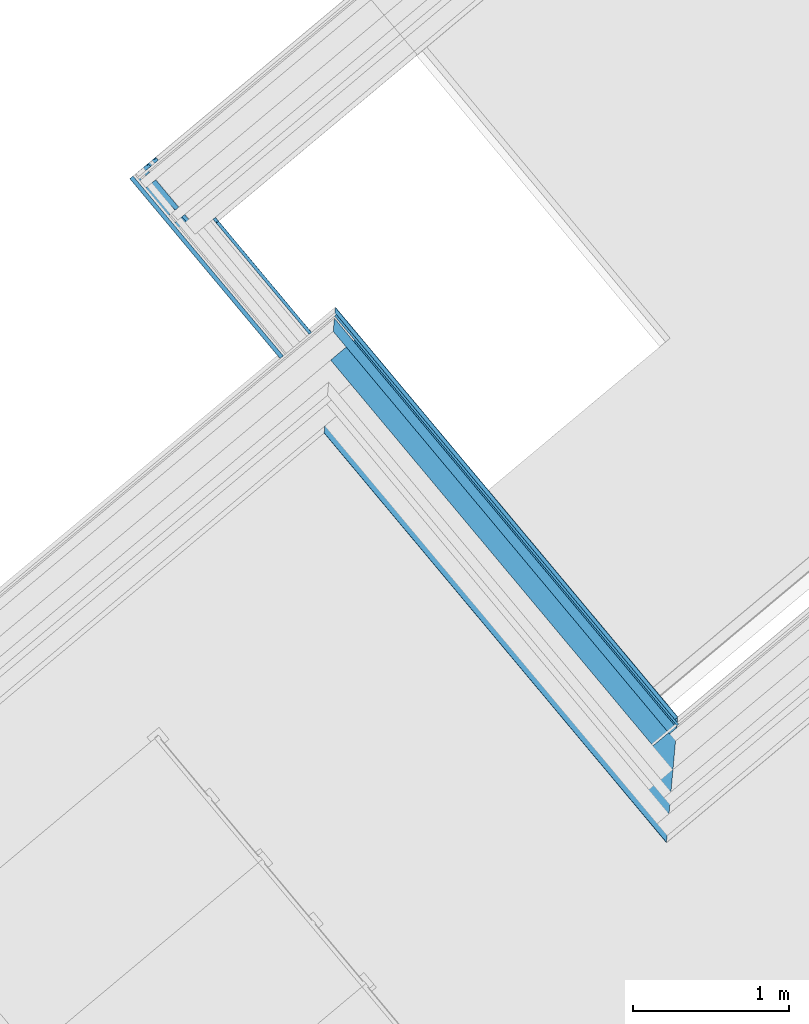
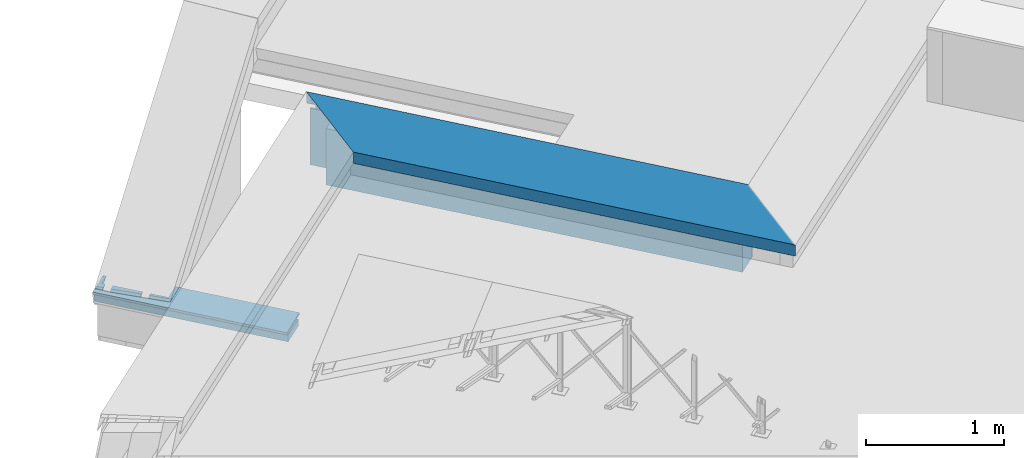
# One storey, part 4 of 15: 7 building element parts, 2 elements without a shape of their own.
"""IFC4 building model written with IfcOpenShell, lengths in metres."""

from ifc_helpers import new_model, entity, si_unit, converted_unit, derived_unit, direction, frame, origin_with_axes, place, context, subcontext, project, spatial, polygons, material, type_object, element, aggregate, save


model = new_model("IFC4")

# Units and contexts
model_context = context("Model", 3, precision=1e-05, world=origin_with_axes(), true_north=direction((0.0, 1.0)))
body_context = subcontext(model_context, "Body", "Model", "MODEL_VIEW")
ifc_project = project(units=[si_unit("LENGTHUNIT", "METRE"), si_unit("AREAUNIT", "SQUARE_METRE"), si_unit("VOLUMEUNIT", "CUBIC_METRE"), converted_unit("PLANEANGLEUNIT", "DEGREE", entity("IfcPlaneAngleMeasure", 0.0174532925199), si_unit("PLANEANGLEUNIT", "RADIAN"), dimensions=[0, 0, 0, 0, 0, 0, 0]), converted_unit("TIMEUNIT", "Year", entity("IfcTimeMeasure", 31556926.0), si_unit("TIMEUNIT", "SECOND"), dimensions=[0, 0, 1, 0, 0, 0, 0]), si_unit("MASSUNIT", "GRAM", prefix="KILO"), si_unit("THERMODYNAMICTEMPERATUREUNIT", "DEGREE_CELSIUS"), si_unit("LUMINOUSINTENSITYUNIT", "LUMEN"), si_unit("ENERGYUNIT", "JOULE", prefix="MEGA"), derived_unit("THERMALCONDUCTANCEUNIT", [(si_unit("POWERUNIT", "WATT"), 1), (si_unit("LENGTHUNIT", "METRE"), -1), (si_unit("THERMODYNAMICTEMPERATUREUNIT", "KELVIN"), -1)]), derived_unit("SPECIFICHEATCAPACITYUNIT", [(si_unit("ENERGYUNIT", "JOULE"), 1), (si_unit("MASSUNIT", "GRAM", prefix="KILO"), -1), (si_unit("THERMODYNAMICTEMPERATUREUNIT", "KELVIN"), -1)]), derived_unit("MASSDENSITYUNIT", [(si_unit("MASSUNIT", "GRAM", prefix="KILO"), 1), (si_unit("VOLUMEUNIT", "CUBIC_METRE"), -1)])], contexts=[model_context])

# Site, building, storey
site_placement = place(None, frame((-0.00153261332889, -0.00661245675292, 0.0), z_axis=(0.0, 0.0, 1.0), x_axis=(1.0, 0.0, 0.0)))
site = spatial("IfcSite", under=ifc_project, at=site_placement, Name="Site", CompositionType="ELEMENT")
building_placement = place(site_placement, origin_with_axes())
building = spatial("IfcBuilding", under=site, at=building_placement, Name="Building", CompositionType="ELEMENT")
storey_placement = place(building_placement, frame((0.0, 0.0, 11.84), z_axis=(0.0, 0.0, 1.0), x_axis=(1.0, 0.0, 0.0)))
storey = spatial("IfcBuildingStorey", under=building, at=storey_placement, Name="DA", CompositionType="ELEMENT", Elevation=11.84)

# Wall, building element parts
wall_type_1 = type_object("IfcWallType", Name="Individuelles Profil 574 x 610", PredefinedType="NOTDEFINED")
wall_1_placement = place(storey_placement, frame((-3.16803107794, 21.4249524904, 0.0), z_axis=(0.0, 0.0, 1.0), x_axis=(0.641209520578, -0.767365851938, 0.0)))
wall_1 = element("IfcWall", 1, at=wall_1_placement, inside=storey, type_object=wall_type_1, Name="Wand-005", PredefinedType="NOTDEFINED")
ifc_material_1 = material(Name="Zementputz")
building_element_part_1_placement = place(wall_1_placement, origin_with_axes())
building_element_part_1 = element("IfcBuildingElementPart", 2, at=building_element_part_1_placement, material=ifc_material_1, Name="Zementputz", PredefinedType="NOTDEFINED", context=body_context, shape_type="Tessellation", body=[
    polygons([(-0.199999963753, 0.214999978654, 0.498822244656), (-0.199999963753, 0.214999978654, 0.5), (3.2179191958, 0.214999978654, 0.5), (3.2179191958, 0.214999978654, 0.498822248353), (3.2179191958, 0.214999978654, 0.491006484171), (3.2179191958, 0.214999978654, 0.488695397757), (3.2179191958, 0.214999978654, 0.235000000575), (3.2179191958, 0.214999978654, 0.0), (-0.199999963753, 0.214999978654, 0.0), (-0.199999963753, 0.214999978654, 0.235000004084), (-0.199999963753, 0.214999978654, 0.488695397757), (-0.199999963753, 0.214999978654, 0.491006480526), (-0.199999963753, 0.199999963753, 0.5), (-0.199999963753, 0.199999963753, 0.498822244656), (3.2179191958, 0.199999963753, 0.5), (3.2179191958, 0.199999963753, 0.498822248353), (3.2179191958, 0.199999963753, 0.491006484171), (3.2179191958, 0.199999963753, 0.488695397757), (3.2179191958, 0.199999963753, 0.235000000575), (3.2179191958, 0.199999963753, 0.0), (-0.199999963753, 0.199999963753, 0.0), (-0.199999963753, 0.199999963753, 0.235000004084), (-0.199999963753, 0.199999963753, 0.488695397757), (-0.199999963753, 0.199999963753, 0.491006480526)], [[[1, 2, 3, 4, 5, 6, 7, 8, 9, 10, 11, 12]], [[13, 2, 1, 14]], [[2, 13, 15, 3]], [[4, 3, 15, 16]], [[4, 16, 17, 5]], [[5, 17, 18, 6]], [[6, 18, 19, 7]], [[7, 19, 20, 8]], [[21, 9, 8, 20]], [[22, 10, 9, 21]], [[23, 11, 10, 22]], [[24, 12, 11, 23]], [[14, 1, 12, 24]], [[13, 14, 24, 23, 22, 21, 20, 19, 18, 17, 16, 15]]], closed=True),
])
ifc_material_2 = material(Name="Vollholz")
building_element_part_2_placement = place(wall_1_placement, origin_with_axes())
building_element_part_2 = element("IfcBuildingElementPart", 3, at=building_element_part_2_placement, material=ifc_material_2, Name="Vollholz", PredefinedType="NOTDEFINED", context=body_context, shape_type="Tessellation", body=[
    polygons([(-0.130124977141, 0.189996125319, 0.584015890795), (-0.130124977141, 0.130124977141, 0.584015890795), (-0.189985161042, 0.189984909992, 0.586106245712), (-0.130124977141, 0.130124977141, 0.575979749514), (-0.130124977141, 0.190039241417, 0.575979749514), (3.22792303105, 0.130124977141, 0.584015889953), (3.22793424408, 0.189984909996, 0.586106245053), (3.22792303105, 0.189996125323, 0.584015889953), (3.22787991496, 0.190039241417, 0.575979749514), (3.22786865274, 0.19005050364, 0.573880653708), (3.22783682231, 0.190082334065, 0.567947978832), (3.22779417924, 0.190124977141, 0.560000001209), (-0.130124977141, 0.190124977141, 0.560000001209), (-0.130124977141, 0.190082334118, 0.567947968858), (-0.130124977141, 0.190050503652, 0.573880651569), (-0.130124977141, 0.130124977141, 0.567947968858), (-0.130124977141, 0.130124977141, 0.560000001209), (3.22779417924, 0.130124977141, 0.560000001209), (3.22783682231, 0.130124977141, 0.567947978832), (3.22786865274, 0.130124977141, 0.573880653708), (3.22787991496, 0.130124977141, 0.575979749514), (-0.130124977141, 0.130124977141, 0.573880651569)], [[[1, 2, 3]], [[4, 2, 1, 5]], [[3, 2, 6, 7]], [[5, 1, 3, 7, 8, 9, 10, 11, 12, 13, 14, 15]], [[16, 17, 18, 19, 20, 21, 6, 2, 4, 22]], [[22, 4, 5, 15]], [[6, 8, 7]], [[6, 21, 9, 8]], [[21, 20, 10, 9]], [[20, 19, 11, 10]], [[19, 18, 12, 11]], [[18, 17, 13, 12]], [[17, 16, 14, 13]], [[16, 22, 15, 14]]], closed=True),
])
ifc_material_3 = material(Name="EPS 1")
building_element_part_3_placement = place(wall_1_placement, origin_with_axes())
building_element_part_3 = element("IfcBuildingElementPart", 4, at=building_element_part_3_placement, material=ifc_material_3, Name="EPS 1", PredefinedType="NOTDEFINED", context=body_context, shape_type="Tessellation", body=[
    polygons([(2.16626361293e-09, 0.19999996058, 0.498822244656), (2.16626361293e-09, 0.19999996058, 0.5), (3.2179191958, 0.19999996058, 0.5), (3.2179191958, 0.19999996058, 0.498822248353), (3.2179191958, 0.19999996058, 0.491006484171), (3.2179191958, 0.19999996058, 0.488695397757), (3.2179191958, 0.19999996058, 0.235000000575), (3.2179191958, 0.19999996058, 0.0), (2.16626006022e-09, 0.19999996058, 0.0), (2.16626361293e-09, 0.19999996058, 0.235000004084), (2.16626361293e-09, 0.19999996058, 0.488695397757), (2.16626361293e-09, 0.19999996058, 0.491006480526), (2.16659046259e-09, -2.16659223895e-09, 0.5), (2.16659046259e-09, -2.16659223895e-09, 0.498822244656), (3.2179191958, -2.16658158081e-09, 0.5), (3.2179191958, -2.16659401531e-09, 0.498822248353), (3.2179191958, -2.16659401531e-09, 0.491006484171), (3.2179191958, -2.16659401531e-09, 0.488695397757), (3.2179191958, -2.16659401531e-09, 0.235000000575), (3.2179191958, -2.16659223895e-09, 0.0), (2.16659046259e-09, -2.16659223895e-09, 0.0), (2.16659046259e-09, -2.16659223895e-09, 0.235000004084), (2.16659046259e-09, -2.16659223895e-09, 0.488695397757), (2.16659046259e-09, -2.16659223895e-09, 0.491006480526)], [[[1, 2, 3, 4, 5, 6, 7, 8, 9, 10, 11, 12]], [[13, 2, 1, 14]], [[2, 13, 15, 3]], [[4, 3, 15, 16]], [[4, 16, 17, 5]], [[5, 17, 18, 6]], [[6, 18, 19, 7]], [[7, 19, 20, 8]], [[21, 9, 8, 20]], [[22, 10, 9, 21]], [[23, 11, 10, 22]], [[24, 12, 11, 23]], [[14, 1, 12, 24]], [[13, 14, 24, 23, 22, 21, 20, 19, 18, 17, 16, 15]]], closed=True),
])
ifc_material_4 = material(Name="Holzwerkstoff")
building_element_part_4_placement = place(wall_1_placement, origin_with_axes())
building_element_part_4 = element("IfcBuildingElementPart", 5, at=building_element_part_4_placement, material=ifc_material_4, Name="Holzwerkstoff", PredefinedType="NOTDEFINED", context=body_context, shape_type="Tessellation", body=[
    polygons([(0.329999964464, -0.329999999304, 0.567947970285), (0.330207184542, -0.160110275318, 0.573880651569), (3.57802942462, -0.160110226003, 0.573880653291), (3.74791914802, -0.329999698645, 0.567947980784), (0.330207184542, -0.330207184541, 0.573880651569), (0.330280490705, -0.100000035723, 0.575979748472), (3.51791916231, -0.0999999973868, 0.575979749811), (3.57802938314, -0.330207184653, 0.573880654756), (0.330561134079, -0.330561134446, 0.584015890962), (0.330280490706, -0.330280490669, 0.575979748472), (3.51791916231, -0.330280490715, 0.575979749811), (3.28779417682, -0.330561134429, 0.584015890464), (3.22793424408, -0.330634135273, 0.586106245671), (3.17791916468, -0.330695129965, 0.587852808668), (3.17792212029, -0.330698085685, 0.587937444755), (0.330698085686, -0.330698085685, 0.587937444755), (0.330634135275, -0.330634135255, 0.586106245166), (3.28779424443, 0.130124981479, 0.584015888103), (0.330561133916, 0.130124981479, 0.584015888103), (3.22793436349, 0.189984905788, 0.586106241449), (3.17791918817, 0.239999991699, 0.587852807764), (3.17792216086, -0.330665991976, 0.587938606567), (3.17792216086, 0.239996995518, 0.587938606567), (-0.239276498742, 0.239276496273, 0.608570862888), (3.17864266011, 0.239276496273, 0.608570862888), (0.330698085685, 0.23999703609, 0.587937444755), (0.330695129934, 0.239999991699, 0.587852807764), (0.330634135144, 0.189984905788, 0.586106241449)], [[[1, 2, 3, 4]], [[2, 1, 5]], [[2, 6, 7, 3]], [[4, 3, 8]], [[9, 10, 5, 1, 4, 8, 11, 12, 13, 14, 15, 16, 17]], [[2, 5, 10, 6]], [[18, 7, 6, 19]], [[8, 3, 7, 11]], [[10, 9, 19, 6]], [[7, 18, 12, 11]], [[13, 12, 18, 20]], [[14, 13, 20, 21]], [[22, 15, 14, 21, 23]], [[24, 16, 15, 22, 25]], [[17, 16, 26, 27, 28]], [[9, 17, 28, 19]], [[19, 28, 20, 18]], [[28, 27, 21, 20]], [[26, 24, 25, 23, 21, 27]], [[22, 23, 25]], [[26, 16, 24]]], closed=True),
])
ifc_material_5 = material(Name="Stahl")
building_element_part_5_placement = place(wall_1_placement, origin_with_axes())
building_element_part_5 = element("IfcBuildingElementPart", 6, at=building_element_part_5_placement, material=ifc_material_5, Name="Stahl", PredefinedType="NOTDEFINED", context=body_context, shape_type="Tessellation", body=[
    polygons([(0.332051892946, -0.332051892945, 0.491006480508), (0.332051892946, -0.332051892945, 0.498822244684), (0.332051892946, -0.330698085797, 0.498822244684), (0.332051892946, -0.330698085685, 0.49100648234), (0.332051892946, -0.332051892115, 0.489652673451), (3.74805649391, -0.332051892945, 0.489652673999), (3.74670268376, -0.332051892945, 0.491006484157), (3.74861724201, -0.332051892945, 0.491006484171), (3.74861724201, -0.332051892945, 0.498822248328), (3.74997104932, -0.332051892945, 0.498822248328), (3.74997104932, -0.332051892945, 0.5), (3.74861724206, -0.332051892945, 0.5), (3.74861724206, -0.332051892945, 0.509050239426), (3.74861724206, -0.332051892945, 0.511361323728), (3.74861724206, -0.332051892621, 0.519224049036), (3.74861724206, -0.332051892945, 0.559999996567), (3.74861724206, -0.332051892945, 0.567947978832), (3.74861724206, -0.332051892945, 0.573880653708), (3.74861724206, -0.332051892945, 0.575979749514), (3.74861724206, -0.332051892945, 0.584015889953), (3.74861724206, -0.332051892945, 0.586106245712), (3.74861724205, -0.332051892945, 0.587937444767), (3.71254963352, -0.332051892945, 0.58924311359), (0.332051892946, -0.332051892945, 0.589243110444), (0.332051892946, -0.332051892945, 0.587937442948), (0.332051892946, -0.332051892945, 0.586106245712), (0.332051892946, -0.332051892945, 0.584015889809), (0.332051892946, -0.332051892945, 0.575979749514), (0.332051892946, -0.332051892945, 0.573880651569), (0.332051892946, -0.332051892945, 0.567947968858), (0.332051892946, -0.332051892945, 0.55999999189), (0.332051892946, -0.332051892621, 0.519224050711), (0.332051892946, -0.332051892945, 0.51136132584), (0.332051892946, -0.332051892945, 0.509050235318), (0.332051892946, -0.332051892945, 0.499999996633), (0.332051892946, -0.330698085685, 0.499999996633), (0.332051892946, -0.330698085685, 0.509050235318), (0.332051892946, -0.330698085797, 0.51136132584), (0.332051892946, -0.330698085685, 0.519224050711), (0.332051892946, -0.330698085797, 0.55999999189), (0.332051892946, -0.330698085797, 0.567947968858), (0.332051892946, -0.330698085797, 0.573880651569), (0.332051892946, -0.330698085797, 0.575979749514), (0.332051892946, -0.330698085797, 0.584015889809), (0.332051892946, -0.330698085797, 0.586106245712), (0.332051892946, -0.330698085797, 0.587937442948), (3.74861724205, -0.330698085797, 0.587937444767), (3.74861724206, -0.330698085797, 0.586106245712), (3.74861724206, -0.330698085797, 0.584015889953), (3.74861724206, -0.330698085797, 0.575979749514), (3.74861724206, -0.330698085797, 0.573880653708), (3.74861724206, -0.330698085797, 0.567947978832), (3.74861724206, -0.330698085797, 0.559999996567), (3.74861724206, -0.330698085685, 0.519224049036), (3.74861724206, -0.330698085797, 0.511361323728), (3.74861724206, -0.330698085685, 0.509050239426), (3.74861724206, -0.330698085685, 0.5), (3.74997104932, -0.330698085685, 0.5), (3.74997104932, -0.330698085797, 0.498822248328), (3.74861724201, -0.330698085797, 0.498822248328), (3.74861724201, -0.330698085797, 0.491006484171), (3.74670268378, -0.330698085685, 0.491006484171), (0.332051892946, -0.328783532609, 0.491006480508), (0.332051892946, -0.330137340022, 0.489652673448), (0.33109460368, -0.331094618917, 0.4886954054), (3.74901377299, -0.331094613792, 0.488695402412), (3.74670268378, -0.328783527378, 0.491006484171), (3.17864266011, 0.239276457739, 0.608570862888), (3.17864266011, 0.20184970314, 0.608570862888), (-0.201849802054, 0.201849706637, 0.608570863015), (3.17776635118, 0.202730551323, 0.608602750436), (3.17641890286, 0.202730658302, 0.608602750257), (3.1764188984, 0.241500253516, 0.610006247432), (-0.241500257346, 0.241500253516, 0.610006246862), (-0.20273064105, 0.202730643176, 0.608602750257), (0.332051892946, -0.294630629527, 0.589243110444), (-0.201849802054, 0.239276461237, 0.608570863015), (0.330698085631, -0.330698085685, 0.491006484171), (3.73979723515, -0.323792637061, 0.497911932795), (3.7408014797, -0.32288233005, 0.498822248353), (0.322882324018, -0.32288233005, 0.498822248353), (0.330698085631, -0.328783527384, 0.491006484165), (0.323792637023, -0.321878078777, 0.497911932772), (3.73979723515, -0.321878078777, 0.497911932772), (3.17788831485, 0.23992751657, 0.608598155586), (3.17788614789, 0.238040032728, 0.608598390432), (3.17776635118, 0.2029185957, 0.608602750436), (3.17641890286, 0.240097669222, 0.608602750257), (3.17641890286, 0.240152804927, 0.608602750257), (3.17641890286, 0.241500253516, 0.608602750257), (-0.24015053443, 0.241500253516, 0.573880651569), (-0.240150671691, 0.241500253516, 0.575979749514), (-0.240151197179, 0.241500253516, 0.584015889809), (-0.240151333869, 0.241500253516, 0.586106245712), (-0.240151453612, 0.241500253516, 0.587937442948), (-0.240152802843, 0.241500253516, 0.608570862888), (-0.240152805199, 0.241500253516, 0.608602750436), (-0.20273064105, 0.241500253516, 0.608602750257), (3.17641890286, 0.241500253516, 0.608570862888), (3.17641890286, 0.241500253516, 0.587938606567), (3.17641890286, 0.241500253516, 0.586106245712), (3.17641890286, 0.241500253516, 0.584015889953), (3.17641890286, 0.241500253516, 0.575979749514), (3.17641890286, 0.241500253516, 0.573880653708), (3.17641890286, 0.241500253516, 0.567947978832), (3.17641890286, 0.241500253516, 0.559999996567), (3.17641890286, 0.241500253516, 0.519224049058), (3.17641890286, 0.241500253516, 0.511361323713), (3.17641890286, 0.241500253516, 0.510007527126), (-0.239585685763, 0.241500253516, 0.510007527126), (-0.238231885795, 0.241500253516, 0.511361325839), (-0.240146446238, 0.241500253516, 0.51136132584), (-0.240146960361, 0.241500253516, 0.519224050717), (-0.240149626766, 0.241500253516, 0.55999999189), (-0.240150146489, 0.241500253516, 0.567947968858), (-0.20273064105, 0.240152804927, 0.608602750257), (3.17641890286, 0.240152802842, 0.608570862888), (-0.24015053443, 0.24015053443, 0.573880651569), (-0.240150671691, 0.240150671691, 0.575979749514), (-0.240151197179, 0.240151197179, 0.584015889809), (-0.240151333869, 0.240151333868, 0.586106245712), (-0.240151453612, 0.240151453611, 0.587937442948), (-0.240152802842, 0.240152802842, 0.608570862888), (-0.240152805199, 0.240152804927, 0.608602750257), (3.17641890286, 0.240151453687, 0.587938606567), (3.17641890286, 0.240151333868, 0.586106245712), (3.17641890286, 0.240151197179, 0.584015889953), (3.17641890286, 0.240150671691, 0.575979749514), (3.17641890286, 0.24015053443, 0.573880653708), (3.17641890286, 0.240150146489, 0.567947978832), (3.17641890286, 0.240149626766, 0.559999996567), (3.17641890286, 0.240146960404, 0.519224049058), (3.17641890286, 0.240146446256, 0.51136132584), (3.17641890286, 0.238231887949, 0.51136132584), (3.17641890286, 0.239585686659, 0.510007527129), (-0.240542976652, 0.240542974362, 0.509050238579), (3.17737617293, 0.240542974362, 0.509050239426), (-0.238231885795, 0.238231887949, 0.51136132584), (-0.238231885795, 0.240146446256, 0.511361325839), (-0.240146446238, 0.240146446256, 0.51136132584), (-0.240146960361, 0.240146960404, 0.519224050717), (-0.240149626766, 0.240149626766, 0.55999999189), (-0.240150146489, 0.240150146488, 0.567947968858), (-0.231373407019, 0.231373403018, 0.518219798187), (3.17777271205, 0.238231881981, 0.51136132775), (3.18463118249, 0.231373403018, 0.518219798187), (3.17777271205, 0.240146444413, 0.51136132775), (-0.231373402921, 0.233287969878, 0.518219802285), (-0.232283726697, 0.232283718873, 0.51922405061), (3.18563543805, 0.232283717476, 0.519224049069)], [[[1, 2, 3, 4]], [[1, 5, 6, 7, 8, 9, 10, 11, 12, 13, 14, 15, 16, 17, 18, 19, 20, 21, 22, 23, 24, 25, 26, 27, 28, 29, 30, 31, 32, 33, 34, 35, 2]], [[35, 36, 3, 2]], [[4, 3, 36, 37, 38, 39, 40, 41, 42, 43, 44, 45, 46, 47, 48, 49, 50, 51, 52, 53, 54, 55, 56, 57, 58, 59, 60, 61, 62]], [[5, 1, 4, 63, 64]], [[5, 65, 66, 6]], [[7, 6, 66, 67, 62]], [[8, 7, 62, 61]], [[9, 8, 61, 60]], [[10, 9, 60, 59]], [[11, 10, 59, 58]], [[12, 11, 58, 57]], [[13, 12, 57, 56]], [[14, 13, 56, 55]], [[15, 14, 55, 54]], [[16, 15, 54, 53]], [[17, 16, 53, 52]], [[18, 17, 52, 51]], [[19, 18, 51, 50]], [[20, 19, 50, 49]], [[21, 20, 49, 48]], [[22, 21, 48, 47]], [[22, 47, 68, 69, 23]], [[70, 24, 23, 69, 71, 72, 73, 74, 75]], [[25, 24, 76, 46]], [[26, 25, 46, 45]], [[27, 26, 45, 44]], [[28, 27, 44, 43]], [[42, 29, 28, 43]], [[41, 30, 29, 42]], [[31, 30, 41, 40]], [[31, 40, 39, 32]], [[38, 33, 32, 39]], [[37, 34, 33, 38]], [[36, 35, 34, 37]], [[46, 76, 77, 68, 47]], [[78, 4, 62, 79, 80, 81]], [[4, 78, 82, 63]], [[65, 64, 63, 82, 83, 84, 67, 66]], [[65, 5, 64]], [[79, 62, 67, 84]], [[71, 69, 68, 85, 86, 87]], [[76, 24, 70, 77]], [[72, 71, 87, 86, 85, 88]], [[72, 88, 89, 90, 73]], [[91, 92, 93, 94, 95, 96, 97, 98, 74, 73, 90, 99, 100, 101, 102, 103, 104, 105, 106, 107, 108, 109, 110, 111, 112, 113, 114, 115]], [[75, 74, 98, 116]], [[70, 75, 116, 77]], [[77, 116, 89, 88, 85, 68]], [[80, 79, 84]], [[83, 81, 80, 84]], [[82, 78, 81, 83]], [[89, 117, 99, 90]], [[118, 119, 92, 91]], [[92, 119, 120, 93]], [[120, 121, 94, 93]], [[121, 122, 95, 94]], [[122, 123, 96, 95]], [[96, 123, 124, 97]], [[97, 124, 116, 98]], [[125, 100, 99, 117]], [[126, 101, 100, 125]], [[126, 127, 102, 101]], [[127, 128, 103, 102]], [[129, 104, 103, 128]], [[129, 130, 105, 104]], [[130, 131, 106, 105]], [[131, 132, 107, 106]], [[133, 108, 107, 132]], [[134, 135, 109, 108, 133]], [[136, 110, 109, 137]], [[136, 138, 139, 111, 110]], [[139, 140, 112, 111]], [[140, 141, 113, 112]], [[141, 142, 114, 113]], [[142, 143, 115, 114]], [[143, 118, 91, 115]], [[141, 140, 139, 133, 132, 131, 130, 129, 128, 127, 126, 125, 117, 89, 116, 124, 123, 122, 121, 120, 119, 118, 143, 142]], [[144, 138, 136, 137, 135, 134, 145, 146]], [[135, 137, 109]], [[145, 134, 133, 147]], [[138, 144, 148, 139]], [[148, 149, 150, 147, 133, 139]], [[145, 147, 150, 146]], [[149, 144, 146, 150]], [[144, 149, 148]]], closed=True),
])
aggregate(wall_1, [building_element_part_1, building_element_part_2, building_element_part_3, building_element_part_4, building_element_part_5])

wall_type_2 = type_object("IfcWallType", Name="Bauteil - Attika Abschluss wand 264 x 407", PredefinedType="NOTDEFINED")
wall_2_placement = place(storey_placement, frame((-3.30589112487, 21.5899361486, -1.80154890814), z_axis=(0.0, 0.0, 1.0), x_axis=(0.767365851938, 0.641209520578, 0.0)))
wall_2 = element("IfcWall", 7, at=wall_2_placement, inside=storey, type_object=wall_type_2, Name="Träger-001", PredefinedType="NOTDEFINED")
building_element_part_6_placement = place(wall_2_placement, origin_with_axes())
building_element_part_6 = element("IfcBuildingElementPart", 8, at=building_element_part_6_placement, material=ifc_material_4, Name="Holzwerkstoff", PredefinedType="NOTDEFINED", context=body_context, shape_type="Tessellation", body=[
    polygons([(-0.0262211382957, 1.50008063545, 0.604759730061), (-0.0262211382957, 1.47453763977, 0.604759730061), (-0.0568048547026, 1.47453764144, 0.583344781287), (-0.0568048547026, 1.50008063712, 0.583344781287), (0.00663529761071, 0.928839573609, 0.605738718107), (-0.00759668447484, 0.936655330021, 0.605314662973), (-0.00593906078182, 0.937659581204, 0.605364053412), (0.0108436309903, 0.928443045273, 0.605864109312), (0.00910048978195, 0.927485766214, 0.6058121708), (-0.138030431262, 0.92748577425, 0.601428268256), (-0.17224700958, 0.927485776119, 0.600408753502), (-0.199999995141, 1.34849929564, 0.599581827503), (-0.199999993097, 1.38591841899, 0.599581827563), (-0.199999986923, 1.49895687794, 0.599581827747), (-0.169715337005, 1.49953765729, 0.60048418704), (-0.166534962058, 1.44952257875, 0.600578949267), (-0.118997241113, 1.4496626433, 0.601995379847), (-0.118997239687, 1.47453764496, 0.601995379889), (-0.0429182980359, 1.49091106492, 0.604262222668), (-0.0447469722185, 1.4918213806, 0.604207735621), (-0.0304294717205, 1.49968410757, 0.604634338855), (-0.199999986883, 1.49969020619, 0.599581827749), (-0.199999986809, 1.5010379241, 0.599581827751), (-0.241694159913, 1.5010379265, 0.598339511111), (-0.241694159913, 0.0, 0.598339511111), (0.0197570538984, 0.0, 0.606129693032), (0.0197570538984, 0.959537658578, 0.606129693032), (-0.118997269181, 0.959537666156, 0.601995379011), (-0.118997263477, 1.05953766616, 0.601995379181), (-0.118997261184, 1.09953766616, 0.601995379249), (-0.144272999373, 1.09942743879, 0.601242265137), (-0.133469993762, 0.929537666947, 0.60156415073), (-0.169871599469, 0.928839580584, 0.600479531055), (-0.137531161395, 0.928839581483, 0.601443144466), (-0.0789260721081, 1.47453764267, 0.582657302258), (-0.149758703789, 1.47453764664, 0.580455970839), (-0.130124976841, 1.47453764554, 0.581066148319), (-0.0789260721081, 1.49968475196, 0.582657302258), (-0.0610212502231, 1.49968410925, 0.583213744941), (-0.0753661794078, 1.49182138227, 0.582767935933), (-0.0735340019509, 1.49091106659, 0.582824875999), (-0.0381447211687, 0.93665533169, 0.583924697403), (-0.0238854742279, 0.928839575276, 0.584367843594), (-0.0364839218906, 0.937659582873, 0.58397631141), (-0.0196690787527, 0.928443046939, 0.584498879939), (-0.0214155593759, 0.927485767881, 0.584444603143), (-0.168828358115, 0.927485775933, 0.579863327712), (-0.0789260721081, 0.927485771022, 0.582657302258), (-0.130124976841, 0.927485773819, 0.581066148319), (-0.200000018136, 0.927485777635, 0.580975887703), (-0.190021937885, 0.92748577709, 0.579204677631), (-0.200000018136, 0.927485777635, 0.578894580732), (-0.200000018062, 0.92883958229, 0.578894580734), (-0.200000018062, 0.92883958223, 0.579383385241), (-0.200000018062, 0.928853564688, 0.578894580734), (-0.199999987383, 1.49052847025, 0.578894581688), (-0.199999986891, 1.49953765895, 0.579278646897), (-0.197387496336, 1.44952258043, 0.578975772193), (-0.149758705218, 1.44966264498, 0.580455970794), (-0.190021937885, 1.44954424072, 0.579204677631), (-0.199999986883, 1.49968909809, 0.578894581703), (-0.130124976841, 1.49968658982, 0.581066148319), (-0.190021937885, 1.49968873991, 0.579204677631), (-0.199999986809, 1.5010379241, 0.578894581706), (-0.241050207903, 1.5010379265, 0.577618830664), (-0.241050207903, 0.0, 0.577618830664), (-0.0789260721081, 0.0, 0.582657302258), (-0.0192371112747, 0.0, 0.584512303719), (0.0203906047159, 0.0, 0.585743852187), (-0.190021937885, 0.0, 0.579204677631), (-0.130124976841, 0.0, 0.581066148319), (0.0203906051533, 0.959537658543, 0.585743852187), (-0.0192371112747, 0.959537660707, 0.584512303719), (-0.0789260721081, 0.959537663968, 0.582657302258), (-0.130124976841, 0.959537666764, 0.581066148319), (-0.14975873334, 0.959537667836, 0.58045596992), (-0.149758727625, 1.05953766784, 0.580455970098), (-0.149758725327, 1.09953766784, 0.580455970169), (-0.175082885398, 1.09942744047, 0.579668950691), (-0.164259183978, 0.929537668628, 0.580005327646), (-0.190021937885, 0.929044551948, 0.579204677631), (-0.168328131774, 0.928839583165, 0.579878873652), (-0.190021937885, 0.92883958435, 0.579204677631), (-0.130124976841, 0.928839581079, 0.581066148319), (-0.0789260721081, 0.928839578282, 0.582657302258)], [[[1, 2, 3, 4]], [[5, 6, 7, 8, 9, 10, 11, 12, 13, 14, 15, 16, 17, 18, 2, 1, 19, 20, 21, 22, 23, 24, 25, 26, 27, 28, 29, 30, 31, 32, 33, 34]], [[35, 3, 2, 18, 36, 37]], [[4, 3, 35, 38, 39, 40, 41]], [[41, 19, 1, 4]], [[42, 6, 5, 43]], [[44, 7, 6, 42]], [[45, 8, 7, 44]], [[46, 9, 8, 45]], [[47, 10, 9, 46, 48, 49]], [[50, 11, 10, 47, 51, 52]], [[50, 12, 11]], [[50, 52, 53, 54, 13, 12]], [[54, 55, 56, 57, 14, 13]], [[57, 15, 14]], [[58, 16, 15, 57, 56]], [[59, 17, 16, 58, 60]], [[36, 18, 17, 59]], [[40, 20, 19, 41]], [[39, 21, 20, 40]], [[61, 22, 21, 39, 38, 62, 63]], [[64, 23, 22, 61]], [[24, 23, 64, 65]], [[65, 66, 25, 24]], [[67, 68, 69, 26, 25, 66, 70, 71]], [[69, 72, 27, 26]], [[28, 27, 72, 73, 74, 75, 76]], [[77, 29, 28, 76]], [[78, 30, 29, 77]], [[79, 31, 30, 78]], [[80, 32, 31, 79]], [[54, 33, 32, 80, 81, 55]], [[82, 34, 33, 54, 53, 83]], [[43, 5, 34, 82, 84, 85]], [[36, 59, 60, 63, 62, 37]], [[38, 35, 37, 62]], [[85, 74, 73, 68, 67, 48, 46, 45, 44, 42, 43]], [[71, 49, 48, 67]], [[51, 47, 49, 71, 70]], [[56, 55, 81, 83, 53, 52, 51, 70, 66, 65, 64, 61, 63, 60, 58]], [[68, 73, 72, 69]], [[84, 75, 74, 85]], [[77, 76, 75, 84, 82, 83, 81, 80, 79, 78]]], closed=True),
    polygons([(-0.190021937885, 1.33391212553, 0.579204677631), (-0.190021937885, 1.38966264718, 0.579204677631), (-0.149758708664, 1.38966264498, 0.580455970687), (-0.149758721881, 1.15953766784, 0.580455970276), (-0.178912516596, 1.15953766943, 0.579549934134), (-0.193573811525, 1.38966264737, 0.579094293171), (-0.162728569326, 1.38966264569, 0.600692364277), (-0.118997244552, 1.3896626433, 0.601995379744), (-0.118997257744, 1.15953766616, 0.601995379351), (-0.148095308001, 1.15953766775, 0.601128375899)], [[[1, 2, 3, 4, 5]], [[1, 6, 2]], [[6, 7, 8, 3, 2]], [[3, 8, 9, 4]], [[4, 9, 10, 5]], [[5, 10, 7, 6, 1]], [[8, 7, 10, 9]]], closed=True),
])
ifc_material_6 = material(Name="Brettschichtholz")
building_element_part_7_placement = place(wall_2_placement, origin_with_axes())
building_element_part_7 = element("IfcBuildingElementPart", 9, at=building_element_part_7_placement, material=ifc_material_6, Name="Brettschichtholz", PredefinedType="NOTDEFINED", context=body_context, shape_type="Tessellation", body=[
    polygons([(-0.0901446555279, 1.50008063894, 0.560000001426), (-0.0901446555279, 1.47453764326, 0.560000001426), (-0.175833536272, 1.47453764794, 0.500000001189), (-0.175833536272, 1.50008064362, 0.500000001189), (-0.13012497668, 1.49968546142, 0.560000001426), (-0.13012497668, 1.4745376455, 0.560000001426), (-0.106131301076, 1.49091106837, 0.560000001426), (-0.107882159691, 1.49182138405, 0.560000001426), (-0.0941739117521, 1.49968411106, 0.560000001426), (-0.199999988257, 1.47453764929, 0.500000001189), (-0.178972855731, 1.47453764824, 0.560000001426), (-0.199999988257, 1.47453764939, 0.545276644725), (-0.200000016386, 0.959537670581, 0.500000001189), (-0.140345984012, 0.959537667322, 0.500000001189), (2.37772646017e-09, 0.959537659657, 0.500000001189), (2.37772646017e-09, 0.0, 0.500000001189), (-0.214999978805, 0.0, 0.500000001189), (-0.214999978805, 1.5010379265, 0.500000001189), (-0.199999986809, 1.5010379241, 0.499999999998), (-0.199999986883, 1.49968487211, 0.500000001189), (-0.179862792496, 1.49968411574, 0.500000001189), (-0.193571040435, 1.49182138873, 0.500000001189), (-0.19182018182, 1.49091107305, 0.500000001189), (-0.200000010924, 1.05953767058, 0.500000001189), (-0.200000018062, 0.928839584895, 0.500000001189), (-0.200000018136, 0.927485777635, 0.500000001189), (-0.142014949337, 0.927485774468, 0.500000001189), (-0.140345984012, 0.928443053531, 0.500000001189), (-0.156414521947, 0.937659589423, 0.500000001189), (-0.158001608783, 0.936655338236, 0.500000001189), (-0.144375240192, 0.928839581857, 0.500000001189), (-0.178972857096, 1.44966264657, 0.560000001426), (-0.190124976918, 1.49968771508, 0.560000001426), (-0.190124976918, 1.44962832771, 0.560000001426), (-0.199999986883, 1.499688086, 0.560000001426), (-0.199999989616, 1.44966264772, 0.54527664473), (-0.200000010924, 1.05953767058, 0.545276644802), (-0.199999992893, 1.38966264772, 0.545276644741), (-0.200000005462, 1.15953767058, 0.545276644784), (-0.200000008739, 1.09953767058, 0.545276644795), (-0.13012497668, 0.959537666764, 0.560000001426), (-0.0791484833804, 0.95953766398, 0.560000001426), (-0.0546571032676, 0.959537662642, 0.560000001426), (-0.200000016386, 0.959537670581, 0.545276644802), (-0.178972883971, 0.959537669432, 0.560000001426), (-0.0191484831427, 0.959537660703, 0.560000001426), (2.37772646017e-09, 0.959537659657, 0.560000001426), (2.37772646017e-09, 0.0, 0.560000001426), (-0.0191484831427, 0.0, 0.560000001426), (-0.0791484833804, 0.0, 0.560000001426), (-0.13012497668, 0.0, 0.560000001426), (-0.190124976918, 0.0, 0.560000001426), (-0.214999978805, 0.0, 0.560000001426), (-0.214999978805, 1.5010379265, 0.560000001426), (-0.199999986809, 1.5010379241, 0.560000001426), (-0.200000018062, 0.928839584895, 0.557701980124), (-0.200000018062, 0.928839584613, 0.560000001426), (-0.200000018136, 0.927485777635, 0.560000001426), (-0.200000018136, 0.927485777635, 0.558036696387), (-0.13012497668, 0.927485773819, 0.560000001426), (-0.0791484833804, 0.927485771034, 0.560000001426), (-0.0563260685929, 0.927485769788, 0.560000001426), (-0.197196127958, 0.927485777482, 0.560000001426), (-0.190124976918, 0.927485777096, 0.560000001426), (-0.0546571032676, 0.92844304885, 0.560000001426), (-0.0707256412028, 0.937659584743, 0.560000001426), (-0.0723127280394, 0.936655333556, 0.560000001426), (-0.0586863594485, 0.928839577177, 0.560000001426), (-0.0791484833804, 0.928839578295, 0.560000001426), (-0.13012497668, 0.928839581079, 0.560000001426), (-0.190124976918, 0.928839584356, 0.560000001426), (-0.19671810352, 0.928839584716, 0.560000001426), (-0.199999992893, 1.38966264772, 0.560000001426), (-0.199999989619, 1.44959793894, 0.560000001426), (-0.190124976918, 1.09948687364, 0.560000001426), (-0.200000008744, 1.09944189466, 0.560000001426), (-0.200000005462, 1.15953767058, 0.560000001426), (-0.190124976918, 1.15953767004, 0.560000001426), (-0.190124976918, 1.38966264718, 0.560000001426), (-0.192829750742, 0.929537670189, 0.560000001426), (-0.200000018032, 0.929394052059, 0.560000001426), (-0.200000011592, 1.04730988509, 0.560000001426), (-0.17897286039, 1.38966264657, 0.560000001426), (-0.17897287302, 1.15953766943, 0.560000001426), (-0.178972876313, 1.09953766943, 0.560000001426), (-0.178972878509, 1.05953766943, 0.560000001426), (-0.200000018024, 0.929537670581, 0.554979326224)], [[[1, 2, 3, 4]], [[5, 6, 2, 1, 7, 8, 9]], [[10, 3, 2, 6, 11, 12]], [[13, 14, 15, 16, 17, 18, 19, 20, 21, 22, 23, 4, 3, 10, 24], [25, 26, 27, 28, 29, 30, 31]], [[23, 7, 1, 4]], [[32, 11, 6, 5, 33, 34]], [[22, 8, 7, 23]], [[21, 9, 8, 22]], [[33, 5, 9, 21, 20, 35]], [[12, 11, 32, 36]], [[37, 24, 10, 12, 36, 38, 39, 40]], [[41, 42, 43, 14, 13, 44, 45]], [[43, 46, 47, 15, 14]], [[16, 15, 47, 48]], [[49, 50, 51, 52, 53, 17, 16, 48]], [[18, 17, 53, 54]], [[54, 55, 19, 18]], [[19, 55, 35, 20]], [[44, 13, 24, 37]], [[56, 57, 58, 59, 26, 25]], [[60, 61, 62, 27, 26, 59, 63, 64]], [[27, 62, 65, 28]], [[28, 65, 66, 29]], [[29, 66, 67, 30]], [[30, 67, 68, 31]], [[31, 68, 69, 70, 71, 72, 56, 25]], [[73, 74, 34, 33, 35, 55, 54, 53, 52, 64, 63, 58, 57, 72, 71, 75, 76, 77, 78, 79], [80, 81, 82]], [[36, 32, 34, 74]], [[36, 74, 73, 38]], [[38, 83, 84, 39]], [[39, 77, 76, 40]], [[40, 85, 86, 37]], [[69, 42, 41, 70]], [[46, 43, 42, 69, 68, 67, 66, 65, 62, 61, 50, 49]], [[37, 86, 45, 44]], [[86, 85, 75, 71, 70, 41, 45]], [[48, 47, 46, 49]], [[50, 61, 60, 51]], [[51, 60, 64, 52]], [[56, 72, 57]], [[59, 58, 63]], [[76, 75, 85, 40]], [[39, 84, 78, 77]], [[84, 83, 79, 78]], [[73, 79, 83, 38]], [[87, 81, 80]], [[87, 82, 81]], [[87, 80, 82]]], closed=True),
])
aggregate(wall_2, [building_element_part_6, building_element_part_7])

save(model, "model.ifc")
